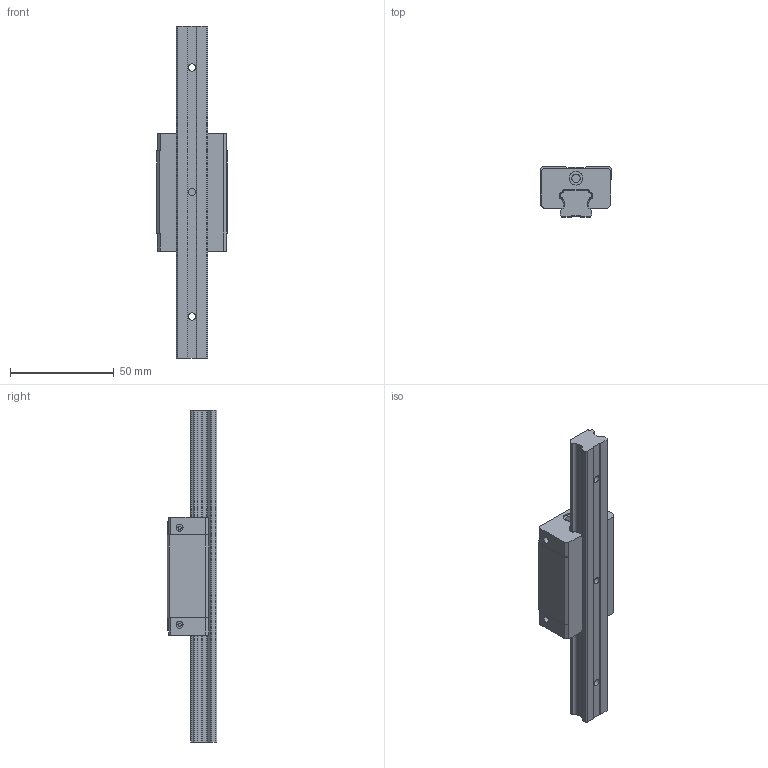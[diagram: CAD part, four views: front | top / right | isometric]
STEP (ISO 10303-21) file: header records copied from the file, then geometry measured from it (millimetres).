
FILE_DESCRIPTION((''),'2;1');
FILE_NAME('QEH15CA_ASM','2008-07-11T',('brianyu'),(''),'PRO/ENGINEER BY PARAMETRIC TECHNOLOGY CORPORATION, 2004360','PRO/ENGINEER BY PARAMETRIC TECHNOLOGY CORPORATION, 2004360','');
FILE_SCHEMA(('CONFIG_CONTROL_DESIGN'));
Length unit declared in the file: millimetre
Products named in the file (4): QEH15CA_BLOCK_1_AF0; QER15_RAIL_1_AF0; QEH15CA_ASM_1_AF0_ASM; QEH15CA_ASM
Assembly tree (3 placements, depth 3):
  QEH15CA_ASM
    QEH15CA_ASM_1_AF0_ASM
      QEH15CA_BLOCK_1_AF0
      QER15_RAIL_1_AF0
Bounding box: 34 x 24 x 160 mm (x, y, z)
Volume: 56362.4 mm3; surface area: 18805.4 mm2
Topology: 2 solids, 2 shells, 225 faces, 646 edges, 448 vertices
Faces by surface type: plane 113, cylinder 112
Entity records: 7646 total; most frequent: DIRECTION 1346, CARTESIAN_POINT 1328, ORIENTED_EDGE 1292, EDGE_CURVE 646, AXIS2_PLACEMENT_3D 466, VERTEX_POINT 448, VECTOR 414, LINE 414
